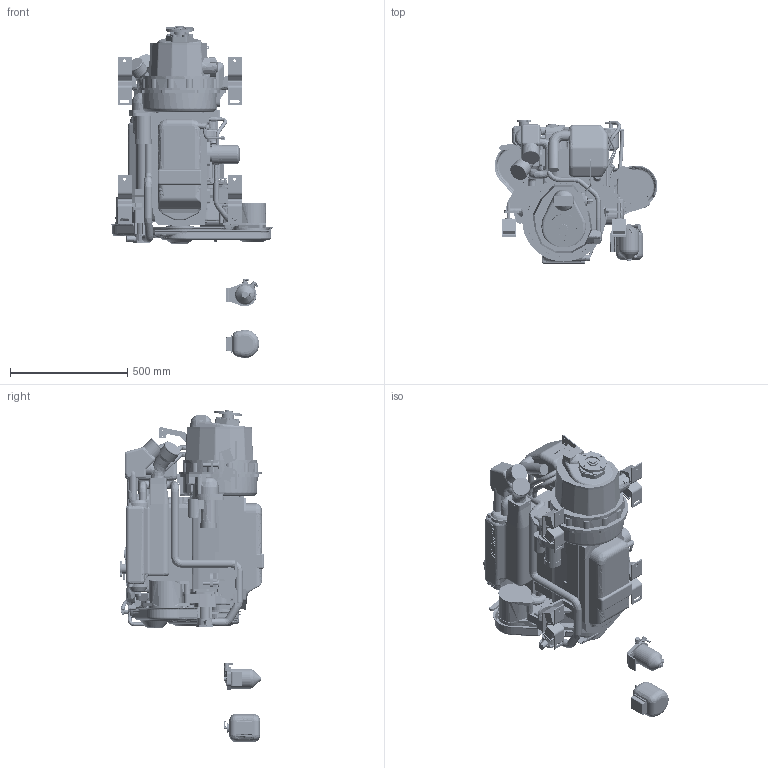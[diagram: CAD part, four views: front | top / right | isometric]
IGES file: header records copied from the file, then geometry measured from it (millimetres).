
Start section: Elysium IGES Interface
Global section: file name: C:\_OH CADenZO\Yanmar\Final Drawings R2009\JH5E-serie\4JH5E-serie\3D Drawing Workfile\JH5_4JH5ExKM4A1_R2009-01.igs; native system: CoCreate Modeling 16.00D  29-May-2009; preprocessor: CoCreate IGES_3D V2.2; author: Unknown; organization: Unknown; date: 20100312.140513; units: millimetre
Bounding box: 695.43 x 613.6 x 1417.96 mm (x, y, z)
Volume: 101984316.9 mm3; surface area: 6435487 mm2
Topology: 49 solids, 49 shells, 4990 faces, 13268 edges, 8514 vertices
Faces by surface type: bspline 4990
